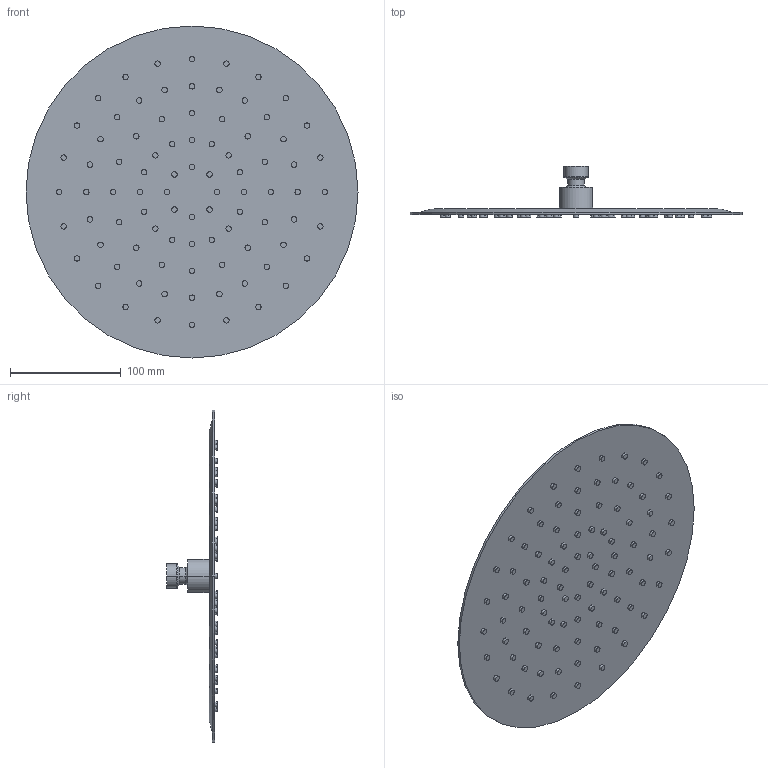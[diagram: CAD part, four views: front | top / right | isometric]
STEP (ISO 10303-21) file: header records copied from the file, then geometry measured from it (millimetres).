
FILE_DESCRIPTION((''),'2;1');
FILE_NAME('P32600','2020-03-16T13:40:36',('LF994'),(''),'CREO PARAMETRIC BY PTC INC, 2018500','CREO PARAMETRIC BY PTC INC, 2018500','');
FILE_SCHEMA(('CONFIG_CONTROL_DESIGN'));
Length unit declared in the file: millimetre
Products named in the file (1): P32600
Bounding box: 300 x 46 x 300 mm (x, y, z)
Volume: 339452.2 mm3; surface area: 150317.2 mm2
Topology: 1 solids, 1 shells, 285 faces, 568 edges, 376 vertices
Faces by surface type: cylinder 184, plane 93, cone 4, torus 4
Entity records: 7616 total; most frequent: DIRECTION 1518, CARTESIAN_POINT 1229, ORIENTED_EDGE 1136, AXIS2_PLACEMENT_3D 665, EDGE_CURVE 568, CIRCLE 380, VERTEX_POINT 376, EDGE_LOOP 376
